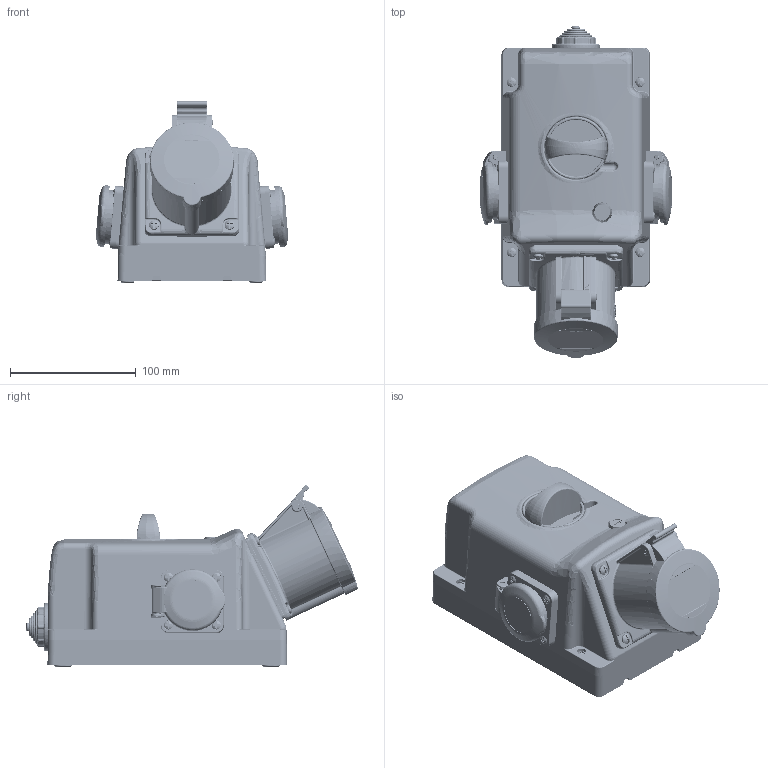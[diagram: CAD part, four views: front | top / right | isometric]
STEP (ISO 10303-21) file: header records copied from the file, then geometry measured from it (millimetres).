
FILE_DESCRIPTION(/* description */ (''),/* implementation_level */ '2;1');
FILE_NAME(/* name */ '4006917.stp',/* time_stamp */ '2024-04-10T08:02:42+02:00',/* author */ (''),/* organization */ (''),/* preprocessor_version */ 'ST-DEVELOPER v19.4',/* originating_system */ 'SIEMENS PLM Software NX2306.8301',/* authorisation */ '');
FILE_SCHEMA (('AUTOMOTIVE_DESIGN { 1 0 10303 214 3 1 1 1 }'));
Products named in the file (1): BTTM4B94D61Apqsp
Bounding box: 152.68 x 263.55 x 143.99 mm (x, y, z)
Volume: 443708.7 mm3; surface area: 341444 mm2
Topology: 32 solids, 32 shells, 6294 faces, 15941 edges, 9828 vertices
Faces by surface type: plane 2208, cylinder 1398, bspline 1347, extrusion 466, cone 403, torus 327, sphere 140, revolution 5
Full cylindrical faces by diameter (mm): 0.2 x2, 0.4 x2, 0.998 x4, 1.5 x1, 2.7 x1, 2.8 x6, 3 x8, 3.2 x4, 4 x28, 4.1 x4, 4.2 x12, 4.3 x2, 5 x1, 5.1 x4, 5.5 x4, 7.1 x1, 7.5 x4, 7.6 x4, 7.8 x4, 11.1 x1, 21.3 x1, 25.4 x1, 30 x1, 31.998 x1, 38 x1, 45 x2, 49.7 x1
Entity records: 303538 total; most frequent: CARTESIAN_POINT 160481, ORIENTED_EDGE 30434, DIRECTION 24508, EDGE_CURVE 15217, VERTEX_POINT 9684, AXIS2_PLACEMENT_3D 8892, EDGE_LOOP 7136, VECTOR 6719
